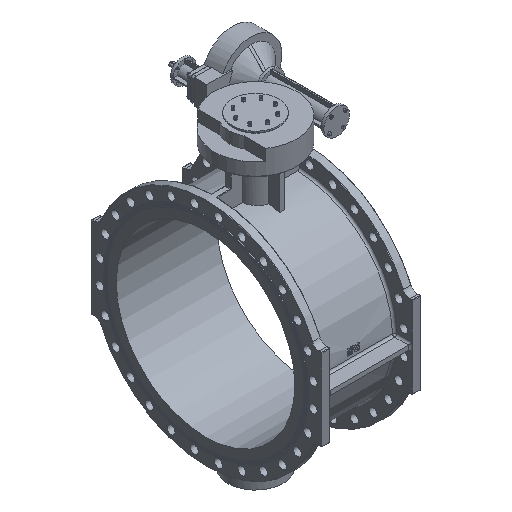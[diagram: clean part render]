
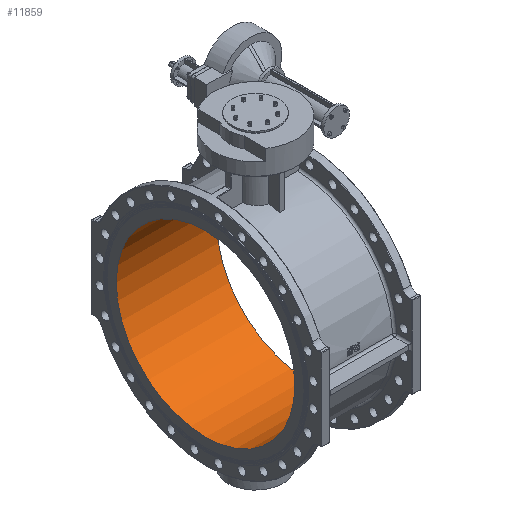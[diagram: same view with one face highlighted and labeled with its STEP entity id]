
A CAD part, isometric view. The second image highlights one B-rep face of the part: STEP entity #11859.
In plain terms, the highlighted cylindrical face has radius 487 mm (diameter 974 mm), a full revolution.
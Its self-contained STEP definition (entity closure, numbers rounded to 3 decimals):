
#3566 = CARTESIAN_POINT ( 'NONE',  ( -275., 0., -487. ) ) ;
#3601 = CARTESIAN_POINT ( 'NONE',  ( 275., 0., -487. ) ) ;
#7269 = EDGE_CURVE ( 'NONE', #34079, #34079, #19238, .T. ) ;
#7326 = EDGE_CURVE ( 'NONE', #34141, #34141, #19306, .T. ) ;
#9787 = EDGE_LOOP ( 'NONE', ( #10732 ) ) ;
#9788 = EDGE_LOOP ( 'NONE', ( #10731 ) ) ;
#10731 = ORIENTED_EDGE ( 'NONE', *, *, #7269, .T. ) ;
#10732 = ORIENTED_EDGE ( 'NONE', *, *, #7326, .T. ) ;
#11859 = ADVANCED_FACE ( 'NONE', ( #27642, #27647 ), #27649, .F. ) ;
#12186 = AXIS2_PLACEMENT_3D ( 'NONE', #20423, #20424, #20425 ) ;
#12230 = AXIS2_PLACEMENT_3D ( 'NONE', #20587, #20588, #20589 ) ;
#12498 = AXIS2_PLACEMENT_3D ( 'NONE', #27022, #27023, #27021 ) ;
#19238 = CIRCLE ( 'NONE', #12186, 487. ) ;
#19306 = CIRCLE ( 'NONE', #12230, 487. ) ;
#20423 = CARTESIAN_POINT ( 'NONE',  ( -275., 0., 0. ) ) ;
#20424 = DIRECTION ( 'NONE',  ( -1., 0., 0. ) ) ;
#20425 = DIRECTION ( 'NONE',  ( 0., 0., -1. ) ) ;
#20587 = CARTESIAN_POINT ( 'NONE',  ( 275., 0., 0. ) ) ;
#20588 = DIRECTION ( 'NONE',  ( 1., 0., 0. ) ) ;
#20589 = DIRECTION ( 'NONE',  ( 0., 0., -1. ) ) ;
#27021 = DIRECTION ( 'NONE',  ( 0., 0., -1. ) ) ;
#27022 = CARTESIAN_POINT ( 'NONE',  ( 0., 0., 0. ) ) ;
#27023 = DIRECTION ( 'NONE',  ( 1., 0., 0. ) ) ;
#27642 = FACE_OUTER_BOUND ( 'NONE', #9788, .T. ) ;
#27647 = FACE_OUTER_BOUND ( 'NONE', #9787, .T. ) ;
#27649 = CYLINDRICAL_SURFACE ( 'NONE', #12498, 487. ) ;
#34079 = VERTEX_POINT ( 'NONE', #3566 ) ;
#34141 = VERTEX_POINT ( 'NONE', #3601 ) ;
